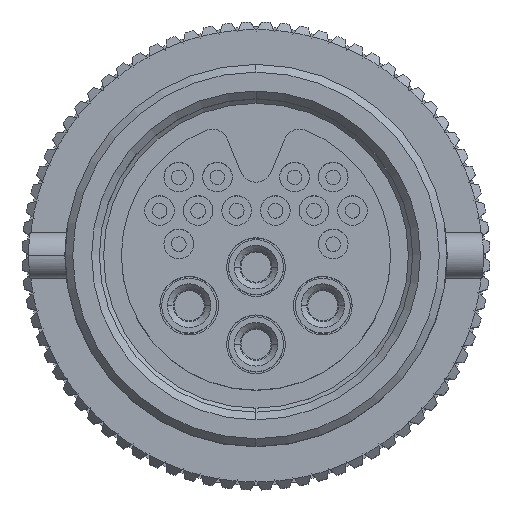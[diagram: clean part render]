
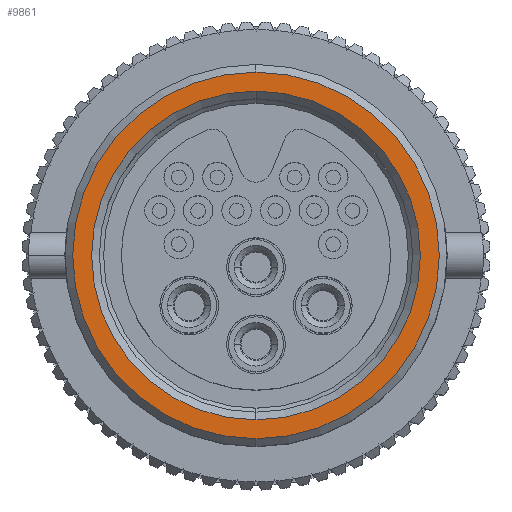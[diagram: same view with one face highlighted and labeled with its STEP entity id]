
A CAD part, top view. The second image highlights one B-rep face of the part: STEP entity #9861.
In plain terms, the highlighted planar face has unit normal (0, 0, 1).
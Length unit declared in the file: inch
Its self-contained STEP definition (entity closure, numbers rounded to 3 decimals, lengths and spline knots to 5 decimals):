
#512 = FACE_OUTER_BOUND ( 'NONE', #4910, .T. ) ;
#522 = DIRECTION ( 'NONE',  ( 0., 0., -1. ) ) ;
#1148 = DIRECTION ( 'NONE',  ( 0., 0., -1. ) ) ;
#3280 = DIRECTION ( 'NONE',  ( 0., 0., -1. ) ) ;
#3401 = CARTESIAN_POINT ( 'NONE',  ( 0., 0.213, 0. ) ) ;
#3414 = EDGE_CURVE ( 'NONE', #21707, #21831, #5036, .T. ) ;
#4349 = DIRECTION ( 'NONE',  ( 0., 0., 1. ) ) ;
#4910 = EDGE_LOOP ( 'NONE', ( #22548, #20781 ) ) ;
#5036 = CIRCLE ( 'NONE', #12023, 0.2375 ) ;
#5096 = AXIS2_PLACEMENT_3D ( 'NONE', #17847, #522, #7586 ) ;
#6094 = AXIS2_PLACEMENT_3D ( 'NONE', #20220, #1148, #13362 ) ;
#6295 = VERTEX_POINT ( 'NONE', #3401 ) ;
#6553 = AXIS2_PLACEMENT_3D ( 'NONE', #20107, #16459, #9639 ) ;
#7586 = DIRECTION ( 'NONE',  ( 0., -1., 0. ) ) ;
#7873 = CARTESIAN_POINT ( 'NONE',  ( 0., 0., 0. ) ) ;
#8503 = FACE_BOUND ( 'NONE', #18573, .T. ) ;
#9639 = DIRECTION ( 'NONE',  ( 0., -1., 0. ) ) ;
#9861 = ADVANCED_FACE ( 'NONE', ( #8503, #512 ), #22152, .F. ) ;
#10120 = CIRCLE ( 'NONE', #6553, 0.2375 ) ;
#10259 = EDGE_CURVE ( 'NONE', #21831, #21707, #10120, .T. ) ;
#10532 = VERTEX_POINT ( 'NONE', #13623 ) ;
#10997 = CIRCLE ( 'NONE', #14619, 0.213 ) ;
#11901 = CARTESIAN_POINT ( 'NONE',  ( 0., -0.2375, 0. ) ) ;
#12023 = AXIS2_PLACEMENT_3D ( 'NONE', #7873, #4349, #21948 ) ;
#13362 = DIRECTION ( 'NONE',  ( 0., -1., 0. ) ) ;
#13623 = CARTESIAN_POINT ( 'NONE',  ( 0., -0.213, 0. ) ) ;
#14619 = AXIS2_PLACEMENT_3D ( 'NONE', #15592, #3280, #15830 ) ;
#15592 = CARTESIAN_POINT ( 'NONE',  ( 0., 0., 0. ) ) ;
#15830 = DIRECTION ( 'NONE',  ( 0., -1., 0. ) ) ;
#16394 = ORIENTED_EDGE ( 'NONE', *, *, #20128, .T. ) ;
#16459 = DIRECTION ( 'NONE',  ( 0., 0., 1. ) ) ;
#17484 = CARTESIAN_POINT ( 'NONE',  ( 0., 0.2375, 0. ) ) ;
#17847 = CARTESIAN_POINT ( 'NONE',  ( 0., 0., 0. ) ) ;
#18135 = EDGE_CURVE ( 'NONE', #6295, #10532, #20433, .T. ) ;
#18573 = EDGE_LOOP ( 'NONE', ( #21013, #16394 ) ) ;
#20107 = CARTESIAN_POINT ( 'NONE',  ( 0., 0., 0. ) ) ;
#20128 = EDGE_CURVE ( 'NONE', #10532, #6295, #10997, .T. ) ;
#20220 = CARTESIAN_POINT ( 'NONE',  ( 0., 0., 0. ) ) ;
#20433 = CIRCLE ( 'NONE', #5096, 0.213 ) ;
#20781 = ORIENTED_EDGE ( 'NONE', *, *, #3414, .T. ) ;
#21013 = ORIENTED_EDGE ( 'NONE', *, *, #18135, .T. ) ;
#21707 = VERTEX_POINT ( 'NONE', #17484 ) ;
#21831 = VERTEX_POINT ( 'NONE', #11901 ) ;
#21948 = DIRECTION ( 'NONE',  ( 0., -1., 0. ) ) ;
#22152 = PLANE ( 'NONE',  #6094 ) ;
#22548 = ORIENTED_EDGE ( 'NONE', *, *, #10259, .T. ) ;
